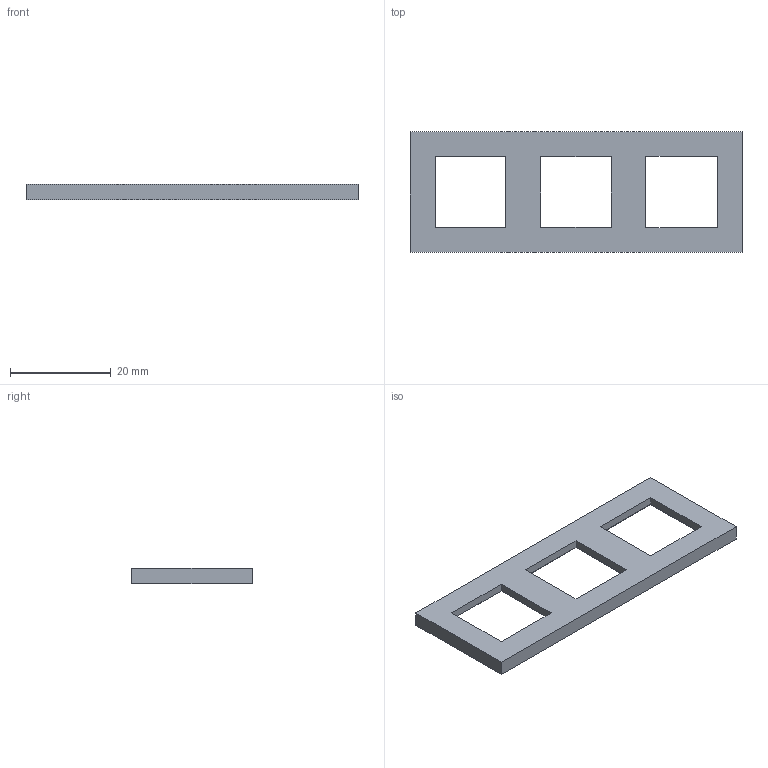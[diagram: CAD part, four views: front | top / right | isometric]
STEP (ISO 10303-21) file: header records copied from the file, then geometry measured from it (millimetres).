
FILE_DESCRIPTION(('Open CASCADE Model'),'2;1');
FILE_NAME('Open CASCADE Shape Model','2026-09-06T14:28:00',('Author'),( 'Open CASCADE'),'Open CASCADE STEP processor 7.9','Open CASCADE 7.9' ,'Unknown');
FILE_SCHEMA(('AUTOMOTIVE_DESIGN { 1 0 10303 214 1 1 1 1 }'));
Length unit declared in the file: millimetre
Products named in the file (1): Open CASCADE STEP translator 7.9 10
Bounding box: 66 x 24 x 3 mm (x, y, z)
Volume: 2614.8 mm3; surface area: 3067.7 mm2
Topology: 1 solids, 1 shells, 33 faces, 84 edges, 56 vertices
Faces by surface type: plane 33
Entity records: 2020 total; most frequent: CARTESIAN_POINT 414, DIRECTION 248, LINE 180, VECTOR 180, ORIENTED_EDGE 168, PCURVE 168, DEFINITIONAL_REPRESENTATION 168, EDGE_CURVE 84
